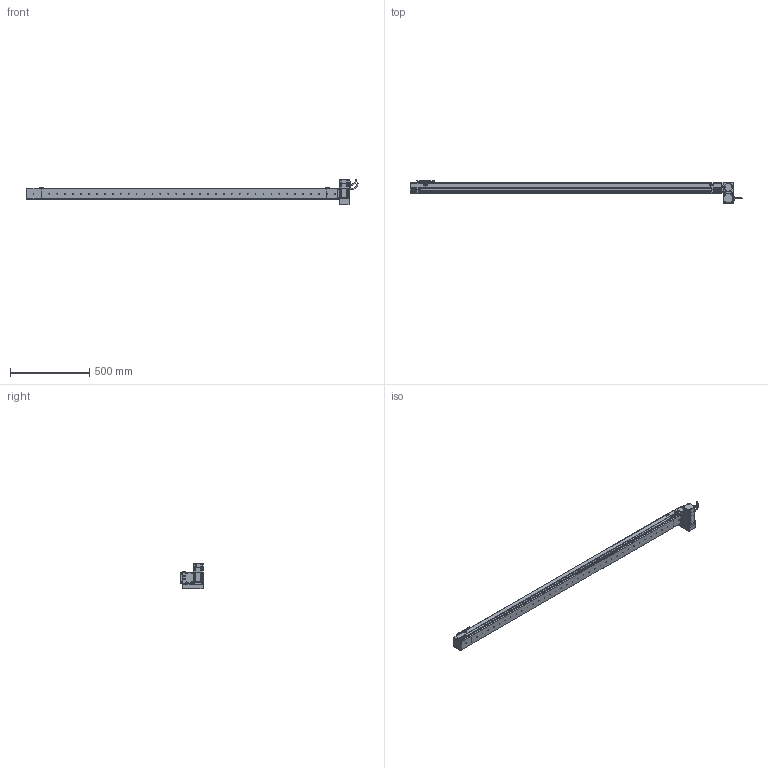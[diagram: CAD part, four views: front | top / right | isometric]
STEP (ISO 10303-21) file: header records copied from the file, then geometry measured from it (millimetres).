
FILE_DESCRIPTION (( 'STEP AP214' ), '1' );
FILE_NAME ('S07 CBN RU S1800.STEP', '2010-06-29T10:59:50', ( 'Conseil Régional Haute-Normandie' ), ( 'Conseil Régional Haute-Normandie' ), 'SwSTEP 2.0', 'SolidWorks 2010', '' );
FILE_SCHEMA (( 'AUTOMOTIVE_DESIGN' ));
Length unit declared in the file: millimetre
Products named in the file (31): Couvercle Tail_Default; Corp Tail_Default; Tail S07 Tail_Default; Couvercle S07 S1800_Default; Corp S07 S1800_Default; Conecteur 60BLDC_Default; Axe 60BLDC_Default; P4_Default; VisM3_Default; Conecteur2 60BLDC_Default; Plaque de bout Tail_Default; P3 90A_Default; vis M5 L8_Default; support chariot_Default; chariot_Default; vis M5 L15_Default; plaque de serrage Tail_Default; Chariot S07_Default; Corp RU_Default; Head RU_Default; S07 CBN RU S1800; plaque de serrage RU_Default; Plaque de bout RU_Default; Couvercle RU_Default; Cache Support Moteur RU_Default; Support Moteur RU_Default; Rondelle de Serrage RU_Default; P2 90A_Default; P1_Default; 60BLDC90A-640_Default
Assembly tree (71 placements, depth 4):
  S07 CBN RU S1800
    Head RU_Default
      vis M5 L15_Default  x16
      Rondelle de Serrage RU_Default  x3
      60BLDC90A-640_Default
        VisM3_Default  x12
        Conecteur 60BLDC_Default
        P4_Default
        Axe 60BLDC_Default
        P3 90A_Default
        Conecteur2 60BLDC_Default
        P2 90A_Default
        P1_Default
      plaque de serrage RU_Default
      Plaque de bout RU_Default
      Support Moteur RU_Default
      Cache Support Moteur RU_Default
      Couvercle RU_Default
      Corp RU_Default
    Tail S07 Tail_Default
      vis M5 L15_Default  x6
      Plaque de bout Tail_Default
      Corp Tail_Default
      Couvercle Tail_Default
      plaque de serrage Tail_Default
    Corp S07 S1800_Default
      Corp S07 S1800_Default
      Couvercle S07 S1800_Default
    Chariot S07_Default
      vis M5 L8_Default  x8
      chariot_Default
      support chariot_Default
Bounding box: 2093.2 x 142 x 162 mm (x, y, z)
Volume: 9821140.6 mm3; surface area: 1099199.9 mm2
Topology: 108 solids, 108 shells, 3958 faces, 9722 edges, 6260 vertices
Faces by surface type: plane 2272, bspline 756, cylinder 719, torus 112, cone 95, sphere 4
Entity records: 155113 total; most frequent: CARTESIAN_POINT 79877, ORIENTED_EDGE 14964, DIRECTION 11315, EDGE_CURVE 7482, VERTEX_POINT 4945, VECTOR 4817, LINE 4817, AXIS2_PLACEMENT_3D 3249
